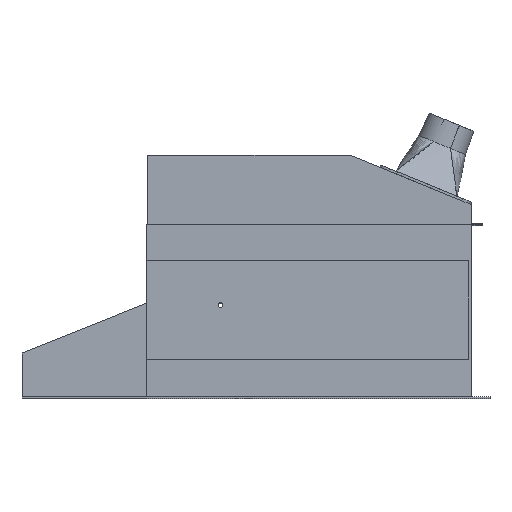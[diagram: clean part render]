
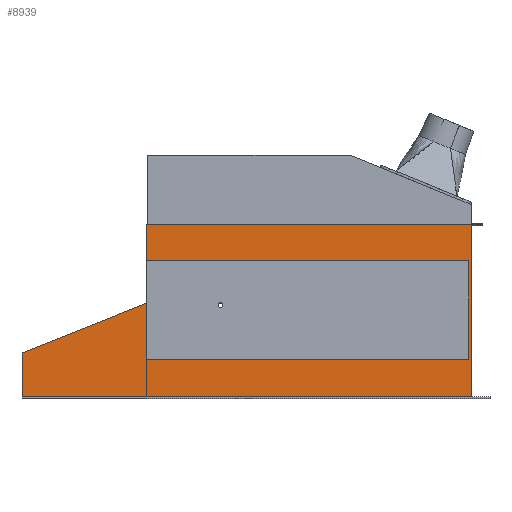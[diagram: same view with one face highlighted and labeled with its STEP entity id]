
A CAD part, top view. The second image highlights one B-rep face of the part: STEP entity #8939.
In plain terms, the highlighted planar face has unit normal (0, 0, 1).
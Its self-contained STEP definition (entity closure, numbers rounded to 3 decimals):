
#360 = CARTESIAN_POINT ( 'NONE',  ( 559.485, 0., 293. ) ) ;
#385 = CARTESIAN_POINT ( 'NONE',  ( -22.521, 56.303, 293. ) ) ;
#631 = VECTOR ( 'NONE', #53075, 1000. ) ;
#1898 = DIRECTION ( 'NONE',  ( 0., -1., 0. ) ) ;
#3283 = CARTESIAN_POINT ( 'NONE',  ( -122.515, 176.605, 293. ) ) ;
#3598 = DIRECTION ( 'NONE',  ( 0., -1., 0. ) ) ;
#3835 = CARTESIAN_POINT ( 'NONE',  ( 559.485, 174.896, 293. ) ) ;
#4874 = ORIENTED_EDGE ( 'NONE', *, *, #32283, .F. ) ;
#5433 = DIRECTION ( 'NONE',  ( 1., 0., 0. ) ) ;
#6217 = CARTESIAN_POINT ( 'NONE',  ( -375.515, 0., 293. ) ) ;
#7034 = LINE ( 'NONE', #52482, #45350 ) ;
#7492 = CARTESIAN_POINT ( 'NONE',  ( 531.485, -97.895, 293. ) ) ;
#7768 = VERTEX_POINT ( 'NONE', #55244 ) ;
#7906 = LINE ( 'NONE', #360, #21384 ) ;
#8194 = VERTEX_POINT ( 'NONE', #40559 ) ;
#8523 = VERTEX_POINT ( 'NONE', #31553 ) ;
#8730 = VECTOR ( 'NONE', #3598, 1000. ) ;
#8939 = ADVANCED_FACE ( 'NONE', ( #25027 ), #30501, .T. ) ;
#10284 = CARTESIAN_POINT ( 'NONE',  ( 559.485, 176.605, 293. ) ) ;
#10615 = DIRECTION ( 'NONE',  ( 0., -1., 0. ) ) ;
#10670 = LINE ( 'NONE', #29054, #48841 ) ;
#10724 = VECTOR ( 'NONE', #35988, 1000. ) ;
#12074 = EDGE_CURVE ( 'NONE', #31833, #48893, #33333, .T. ) ;
#12147 = CARTESIAN_POINT ( 'NONE',  ( -122.515, 0., 293. ) ) ;
#12152 = ORIENTED_EDGE ( 'NONE', *, *, #26798, .T. ) ;
#12908 = ORIENTED_EDGE ( 'NONE', *, *, #24412, .F. ) ;
#13553 = ORIENTED_EDGE ( 'NONE', *, *, #40091, .F. ) ;
#15501 = EDGE_CURVE ( 'NONE', #29103, #48893, #7906, .T. ) ;
#15645 = VERTEX_POINT ( 'NONE', #53137 ) ;
#16396 = CARTESIAN_POINT ( 'NONE',  ( -122.515, 102.105, 293. ) ) ;
#17863 = DIRECTION ( 'NONE',  ( 1., 0., 0. ) ) ;
#18503 = ORIENTED_EDGE ( 'NONE', *, *, #45613, .T. ) ;
#20433 = ORIENTED_EDGE ( 'NONE', *, *, #59723, .F. ) ;
#21105 = VECTOR ( 'NONE', #1898, 1000. ) ;
#21384 = VECTOR ( 'NONE', #10615, 1000. ) ;
#21746 = VECTOR ( 'NONE', #43921, 1000. ) ;
#21990 = VECTOR ( 'NONE', #47451, 1000. ) ;
#22304 = ORIENTED_EDGE ( 'NONE', *, *, #28953, .F. ) ;
#22545 = LINE ( 'NONE', #6217, #10724 ) ;
#23840 = VECTOR ( 'NONE', #59980, 1000. ) ;
#24412 = EDGE_CURVE ( 'NONE', #8194, #29936, #10670, .T. ) ;
#25027 = FACE_OUTER_BOUND ( 'NONE', #27804, .T. ) ;
#25643 = CARTESIAN_POINT ( 'NONE',  ( 537.485, 174.896, 293. ) ) ;
#26798 = EDGE_CURVE ( 'NONE', #38844, #31121, #37022, .T. ) ;
#27486 = LINE ( 'NONE', #33214, #631 ) ;
#27605 = DIRECTION ( 'NONE',  ( -1., 0., 0. ) ) ;
#27804 = EDGE_LOOP ( 'NONE', ( #37591, #63899, #22304, #33891, #45534, #54801, #18503, #12908, #4874, #20433, #13553, #12152 ) ) ;
#27913 = CARTESIAN_POINT ( 'NONE',  ( -122.515, 16.305, 293. ) ) ;
#28717 = CARTESIAN_POINT ( 'NONE',  ( 537.485, 0., 293. ) ) ;
#28723 = CARTESIAN_POINT ( 'NONE',  ( 0., 174.896, 293. ) ) ;
#28953 = EDGE_CURVE ( 'NONE', #31833, #8523, #48516, .T. ) ;
#29054 = CARTESIAN_POINT ( 'NONE',  ( 531.485, 102.105, 293. ) ) ;
#29103 = VERTEX_POINT ( 'NONE', #10284 ) ;
#29936 = VERTEX_POINT ( 'NONE', #16396 ) ;
#30079 = LINE ( 'NONE', #33938, #54771 ) ;
#30501 = PLANE ( 'NONE',  #63210 ) ;
#30654 = CARTESIAN_POINT ( 'NONE',  ( 0., 176.605, 293. ) ) ;
#31121 = VERTEX_POINT ( 'NONE', #62234 ) ;
#31530 = EDGE_CURVE ( 'NONE', #8523, #7768, #27486, .T. ) ;
#31553 = CARTESIAN_POINT ( 'NONE',  ( 537.485, -173.895, 293. ) ) ;
#31833 = VERTEX_POINT ( 'NONE', #25643 ) ;
#32283 = EDGE_CURVE ( 'NONE', #58113, #8194, #49889, .T. ) ;
#33214 = CARTESIAN_POINT ( 'NONE',  ( -375.515, -173.895, 293. ) ) ;
#33333 = LINE ( 'NONE', #28723, #21746 ) ;
#33602 = VERTEX_POINT ( 'NONE', #3283 ) ;
#33891 = ORIENTED_EDGE ( 'NONE', *, *, #12074, .T. ) ;
#33938 = CARTESIAN_POINT ( 'NONE',  ( -122.515, -97.895, 293. ) ) ;
#35455 = DIRECTION ( 'NONE',  ( 0., 0., 1. ) ) ;
#35662 = EDGE_CURVE ( 'NONE', #31121, #7768, #22545, .T. ) ;
#35988 = DIRECTION ( 'NONE',  ( 0., -1., 0. ) ) ;
#36438 = EDGE_CURVE ( 'NONE', #33602, #29103, #57937, .T. ) ;
#37022 = LINE ( 'NONE', #385, #23840 ) ;
#37591 = ORIENTED_EDGE ( 'NONE', *, *, #35662, .T. ) ;
#38844 = VERTEX_POINT ( 'NONE', #27913 ) ;
#40091 = EDGE_CURVE ( 'NONE', #38844, #15645, #30079, .T. ) ;
#40559 = CARTESIAN_POINT ( 'NONE',  ( 531.485, 102.105, 293. ) ) ;
#43921 = DIRECTION ( 'NONE',  ( 1., 0., 0. ) ) ;
#45350 = VECTOR ( 'NONE', #17863, 1000. ) ;
#45534 = ORIENTED_EDGE ( 'NONE', *, *, #15501, .F. ) ;
#45613 = EDGE_CURVE ( 'NONE', #33602, #29936, #58851, .T. ) ;
#47451 = DIRECTION ( 'NONE',  ( 0., 1., 0. ) ) ;
#48516 = LINE ( 'NONE', #28717, #8730 ) ;
#48841 = VECTOR ( 'NONE', #27605, 1000. ) ;
#48893 = VERTEX_POINT ( 'NONE', #3835 ) ;
#49337 = DIRECTION ( 'NONE',  ( 0., -1., 0. ) ) ;
#49889 = LINE ( 'NONE', #7492, #21990 ) ;
#50006 = CARTESIAN_POINT ( 'NONE',  ( 531.485, -97.895, 293. ) ) ;
#50336 = DIRECTION ( 'NONE',  ( 1., 0., 0. ) ) ;
#52482 = CARTESIAN_POINT ( 'NONE',  ( 531.485, -97.895, 293. ) ) ;
#53075 = DIRECTION ( 'NONE',  ( -1., 0., 0. ) ) ;
#53137 = CARTESIAN_POINT ( 'NONE',  ( -122.515, -97.895, 293. ) ) ;
#54771 = VECTOR ( 'NONE', #49337, 1000. ) ;
#54801 = ORIENTED_EDGE ( 'NONE', *, *, #36438, .F. ) ;
#55070 = CARTESIAN_POINT ( 'NONE',  ( 0., 0., 293. ) ) ;
#55244 = CARTESIAN_POINT ( 'NONE',  ( -375.515, -173.895, 293. ) ) ;
#56476 = VECTOR ( 'NONE', #50336, 1000. ) ;
#57937 = LINE ( 'NONE', #30654, #56476 ) ;
#58113 = VERTEX_POINT ( 'NONE', #50006 ) ;
#58851 = LINE ( 'NONE', #12147, #21105 ) ;
#59723 = EDGE_CURVE ( 'NONE', #15645, #58113, #7034, .T. ) ;
#59980 = DIRECTION ( 'NONE',  ( -0.928, -0.371, 0. ) ) ;
#62234 = CARTESIAN_POINT ( 'NONE',  ( -375.515, -84.895, 293. ) ) ;
#63210 = AXIS2_PLACEMENT_3D ( 'NONE', #55070, #35455, #5433 ) ;
#63899 = ORIENTED_EDGE ( 'NONE', *, *, #31530, .F. ) ;
